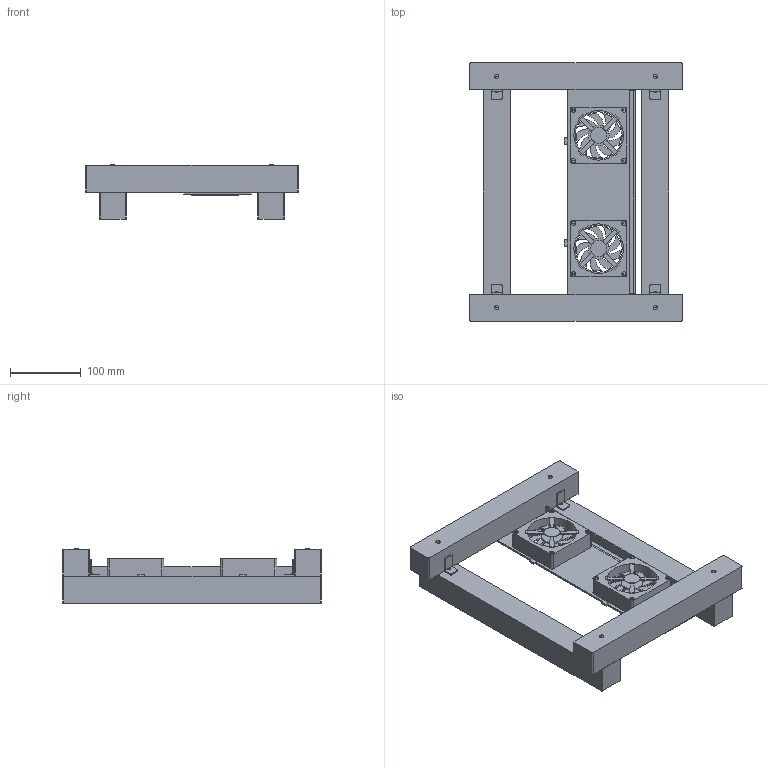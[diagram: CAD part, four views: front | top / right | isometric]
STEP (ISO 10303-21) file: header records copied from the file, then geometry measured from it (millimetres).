
FILE_DESCRIPTION(('Open CASCADE Model'),'2;1');
FILE_NAME('Open CASCADE Shape Model','2026-10-16T01:50:22',('Author'),( 'Open CASCADE'),'Open CASCADE STEP processor 7.9','Open CASCADE 7.9' ,'Unknown');
FILE_SCHEMA(('AUTOMOTIVE_DESIGN { 1 0 10303 214 1 1 1 1 }'));
Length unit declared in the file: millimetre
Products named in the file (60): PORTRAIT_Custom_Zephyrus_G14_Dual_80mm_Fan_Cooling_Stand; 01_Wood_Left_longitudinal_2x2_365mm; 01_Wood_Right_longitudinal_2x2_365mm; 02_Wood_Front_upper_crossbar_2x2_300mm; 02_Wood_Rear_upper_crossbar_2x2_300mm; 03_Anodized_center_fan_plate_with_vent_holes; 04_Front_mounting_plate_support_tab; 04_Rear_mounting_plate_support_tab; 05_Right_aluminium_channel_foot; 06_Right_aluminium_channel_upright; 07_Bracket_Front_Left_horizontal_foot; 08_Bracket_Front_Left_vertical_ear; 09_Bracket_Front_Left_wood_screw; 07_Bracket_Front_Right_horizontal_foot; 08_Bracket_Front_Right_vertical_ear; 09_Bracket_Front_Right_wood_screw; 07_Bracket_Rear_Left_horizontal_foot; 08_Bracket_Rear_Left_vertical_ear; 09_Bracket_Rear_Left_wood_screw; 07_Bracket_Rear_Right_horizontal_foot; 08_Bracket_Rear_Right_vertical_ear; 09_Bracket_Rear_Right_wood_screw; 10_Front_Left_crossbar_screw_head; 11_Front_Left_crossbar_screw_slot; 10_Front_Right_crossbar_screw_head; 11_Front_Right_crossbar_screw_slot; 10_Rear_Left_crossbar_screw_head; 11_Rear_Left_crossbar_screw_slot; 10_Rear_Right_crossbar_screw_head; 11_Rear_Right_crossbar_screw_slot; 12_01_Front_TL_B8_80x80x25_simplified_frame; 13_01_Front_inner_rim; 14_01_Front_rotor_blades_9; 15_01_Front_main_rotor_hub; 16_01_Front_rear_hub_label; 17_01_Front_support_spokes; 18_01_Front_M3_screw_00; 19_01_Front_screw_slot_00; 18_01_Front_M3_screw_01; 19_01_Front_screw_slot_01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
Assembly tree (59 placements, depth 2):
  PORTRAIT_Custom_Zephyrus_G14_Dual_80mm_Fan_Cooling_Stand
    01_Wood_Left_longitudinal_2x2_365mm
    01_Wood_Right_longitudinal_2x2_365mm
    02_Wood_Front_upper_crossbar_2x2_300mm
    02_Wood_Rear_upper_crossbar_2x2_300mm
    03_Anodized_center_fan_plate_with_vent_holes
    04_Front_mounting_plate_support_tab
    04_Rear_mounting_plate_support_tab
    05_Right_aluminium_channel_foot
    06_Right_aluminium_channel_upright
    07_Bracket_Front_Left_horizontal_foot
    08_Bracket_Front_Left_vertical_ear
    09_Bracket_Front_Left_wood_screw
    07_Bracket_Front_Right_horizontal_foot
    08_Bracket_Front_Right_vertical_ear
    09_Bracket_Front_Right_wood_screw
    07_Bracket_Rear_Left_horizontal_foot
    08_Bracket_Rear_Left_vertical_ear
    09_Bracket_Rear_Left_wood_screw
    07_Bracket_Rear_Right_horizontal_foot
    08_Bracket_Rear_Right_vertical_ear
    09_Bracket_Rear_Right_wood_screw
    10_Front_Left_crossbar_screw_head
    11_Front_Left_crossbar_screw_slot
    10_Front_Right_crossbar_screw_head
    11_Front_Right_crossbar_screw_slot
    10_Rear_Left_crossbar_screw_head
    11_Rear_Left_crossbar_screw_slot
    10_Rear_Right_crossbar_screw_head
    11_Rear_Right_crossbar_screw_slot
    12_01_Front_TL_B8_80x80x25_simplified_frame
    13_01_Front_inner_rim
    14_01_Front_rotor_blades_9
    15_01_Front_main_rotor_hub
    16_01_Front_rear_hub_label
    17_01_Front_support_spokes
    18_01_Front_M3_screw_00
    19_01_Front_screw_slot_00
    18_01_Front_M3_screw_01
    19_01_Front_screw_slot_01
    18_01_Front_M3_screw_10
    19_01_Front_screw_slot_10
    18_01_Front_M3_screw_11
    19_01_Front_screw_slot_11
    12_02_Rear_TL_B8_80x80x25_simplified_frame
    13_02_Rear_inner_rim
    14_02_Rear_rotor_blades_9
    15_02_Rear_main_rotor_hub
    16_02_Rear_rear_hub_label
    17_02_Rear_support_spokes
    18_02_Rear_M3_screw_00
    19_02_Rear_screw_slot_00
    18_02_Rear_M3_screw_01
    19_02_Rear_screw_slot_01
    18_02_Rear_M3_screw_10
    19_02_Rear_screw_slot_10
    18_02_Rear_M3_screw_11
    19_02_Rear_screw_slot_11
    20_Cable_clip_-72
    20_Cable_clip_72
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Bounding box: 300 x 365 x 76.48 mm (x, y, z)
Volume: 2151047 mm3; surface area: 349263.8 mm2
Topology: 81 solids, 81 shells, 762 faces, 1800 edges, 1200 vertices
Faces by surface type: plane 650, cylinder 112
Full cylindrical faces by diameter (mm): 3.4 x8, 3.7 x8, 5 x4, 6.2 x12, 23 x2, 29.6 x2, 66.4 x2, 69.2 x2, 70 x4
Entity records: 46875 total; most frequent: CARTESIAN_POINT 7806, DIRECTION 7204, LINE 4952, VECTOR 4952, ORIENTED_EDGE 3600, PCURVE 3600, DEFINITIONAL_REPRESENTATION 3600, EDGE_CURVE 1800
